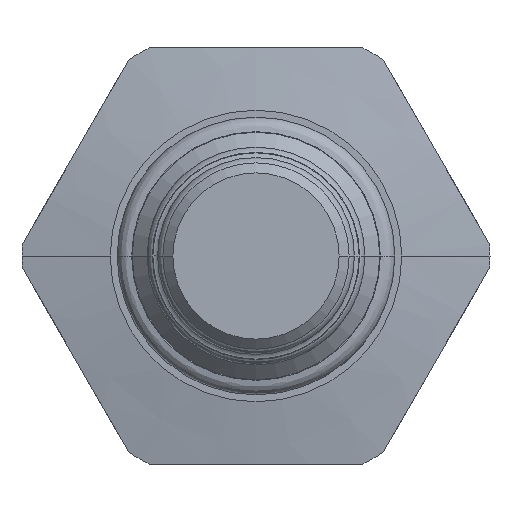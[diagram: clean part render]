
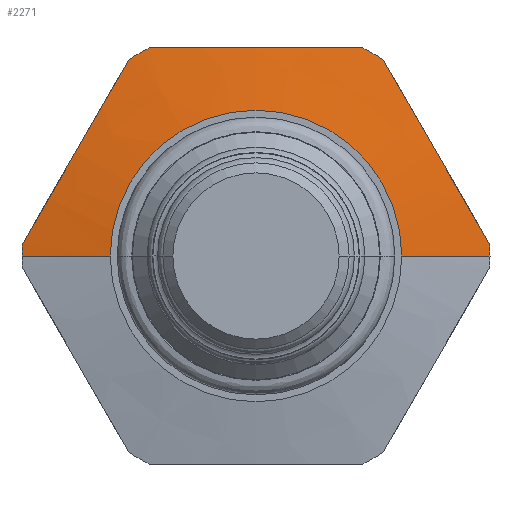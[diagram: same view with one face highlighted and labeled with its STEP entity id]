
A CAD part, front view. The second image highlights one B-rep face of the part: STEP entity #2271.
In plain terms, the highlighted conical face has half-angle 80 degrees and reference radius 14.478 mm.
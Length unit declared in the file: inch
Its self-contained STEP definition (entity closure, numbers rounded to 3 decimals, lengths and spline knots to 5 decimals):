
#100=CARTESIAN_POINT('',(0.,0.03,0.));
#101=DIRECTION('',(0.,-1.,0.));
#102=DIRECTION('',(1.,0.,0.));
#103=AXIS2_PLACEMENT_3D('',#100,#101,#102);
#105=CARTESIAN_POINT('',(0.,0.07673,0.));
#106=DIRECTION('',(0.,1.,0.));
#107=DIRECTION('',(0.999,0.,0.049));
#108=AXIS2_PLACEMENT_3D('',#105,#106,#107);
#110=DIRECTION('',(-0.985,-0.174,0.));
#111=VECTOR('',#110,0.26909);
#112=CARTESIAN_POINT('',(0.7025,0.07673,0.));
#113=LINE('',#112,#111);
#114=DIRECTION('',(0.985,-0.174,0.));
#115=VECTOR('',#114,0.26909);
#116=CARTESIAN_POINT('',(-0.7025,0.07673,0.));
#117=LINE('',#116,#115);
#118=CARTESIAN_POINT('',(0.,0.07673,0.));
#119=DIRECTION('',(0.,1.,0.));
#120=DIRECTION('',(-1.,0.,0.));
#121=AXIS2_PLACEMENT_3D('',#118,#119,#120);
#123=CARTESIAN_POINT('',(0.,0.07673,0.));
#124=DIRECTION('',(0.,1.,0.));
#125=DIRECTION('',(-0.542,0.,0.84));
#126=AXIS2_PLACEMENT_3D('',#123,#124,#125);
#128=CARTESIAN_POINT('',(0.,0.07673,0.));
#129=DIRECTION('',(0.,1.,0.));
#130=DIRECTION('',(0.457,0.,0.89));
#131=AXIS2_PLACEMENT_3D('',#128,#129,#130);
#155=CARTESIAN_POINT('',(0.38089,0.07673,
0.59028));
#156=CARTESIAN_POINT('',(0.38768,0.07563,
0.57852));
#157=CARTESIAN_POINT('',(0.40119,0.07357,
0.55512));
#158=CARTESIAN_POINT('',(0.42122,0.07085,
0.52043));
#159=CARTESIAN_POINT('',(0.44116,0.06851,
0.4859));
#160=CARTESIAN_POINT('',(0.46108,0.06656,
0.45139));
#161=CARTESIAN_POINT('',(0.48104,0.06502,
0.41681));
#162=CARTESIAN_POINT('',(0.50106,0.0639,
0.38213));
#163=CARTESIAN_POINT('',(0.52115,0.06321,
0.34735));
#164=CARTESIAN_POINT('',(0.54127,0.06299,
0.3125));
#165=CARTESIAN_POINT('',(0.56139,0.06321,
0.27765));
#166=CARTESIAN_POINT('',(0.58147,0.0639,
0.24287));
#167=CARTESIAN_POINT('',(0.60149,0.06502,
0.20819));
#168=CARTESIAN_POINT('',(0.62145,0.06656,
0.17361));
#169=CARTESIAN_POINT('',(0.64138,0.06851,
0.1391));
#170=CARTESIAN_POINT('',(0.66132,0.07085,
0.10457));
#171=CARTESIAN_POINT('',(0.68134,0.07357,
0.06988));
#172=CARTESIAN_POINT('',(0.69485,0.07563,
0.04648));
#173=CARTESIAN_POINT('',(0.70164,0.07673,
0.03472));
#197=CARTESIAN_POINT('',(-0.32075,0.07673,0.625));
#198=CARTESIAN_POINT('',(-0.30718,0.07563,0.625));
#199=CARTESIAN_POINT('',(-0.28016,0.07357,0.625));
#200=CARTESIAN_POINT('',(-0.2401,0.07085,0.625));
#201=CARTESIAN_POINT('',(-0.20022,0.06851,0.625));
#202=CARTESIAN_POINT('',(-0.16037,0.06656,0.625));
#203=CARTESIAN_POINT('',(-0.12045,0.06502,0.625));
#204=CARTESIAN_POINT('',(-0.08041,0.0639,0.625));
#205=CARTESIAN_POINT('',(-0.04024,0.06321,0.625));
#206=CARTESIAN_POINT('',(0.,0.06299,0.625));
#207=CARTESIAN_POINT('',(0.04024,0.06321,0.625));
#208=CARTESIAN_POINT('',(0.08041,0.0639,0.625));
#209=CARTESIAN_POINT('',(0.12045,0.06502,0.625));
#210=CARTESIAN_POINT('',(0.16037,0.06656,0.625));
#211=CARTESIAN_POINT('',(0.20022,0.06851,0.625));
#212=CARTESIAN_POINT('',(0.2401,0.07085,0.625));
#213=CARTESIAN_POINT('',(0.28016,0.07357,0.625));
#214=CARTESIAN_POINT('',(0.30718,0.07563,0.625));
#215=CARTESIAN_POINT('',(0.32075,0.07673,0.625));
#239=CARTESIAN_POINT('',(-0.70164,0.07673,
0.03472));
#240=CARTESIAN_POINT('',(-0.69485,0.07563,
0.04648));
#241=CARTESIAN_POINT('',(-0.68134,0.07357,
0.06988));
#242=CARTESIAN_POINT('',(-0.66132,0.07085,
0.10457));
#243=CARTESIAN_POINT('',(-0.64138,0.06851,
0.1391));
#244=CARTESIAN_POINT('',(-0.62145,0.06656,
0.17361));
#245=CARTESIAN_POINT('',(-0.60149,0.06502,
0.20819));
#246=CARTESIAN_POINT('',(-0.58147,0.0639,
0.24287));
#247=CARTESIAN_POINT('',(-0.56139,0.06321,
0.27765));
#248=CARTESIAN_POINT('',(-0.54127,0.06299,
0.3125));
#249=CARTESIAN_POINT('',(-0.52115,0.06321,
0.34735));
#250=CARTESIAN_POINT('',(-0.50106,0.0639,
0.38213));
#251=CARTESIAN_POINT('',(-0.48104,0.06502,
0.41681));
#252=CARTESIAN_POINT('',(-0.46108,0.06656,
0.45139));
#253=CARTESIAN_POINT('',(-0.44116,0.06851,
0.4859));
#254=CARTESIAN_POINT('',(-0.42122,0.07085,
0.52043));
#255=CARTESIAN_POINT('',(-0.40119,0.07357,
0.55512));
#256=CARTESIAN_POINT('',(-0.38768,0.07563,
0.57852));
#257=CARTESIAN_POINT('',(-0.38089,0.07673,
0.59028));
#1907=CARTESIAN_POINT('',(0.4375,0.03,0.));
#1909=VERTEX_POINT('',#1907);
#1915=CARTESIAN_POINT('',(-0.4375,0.03,0.));
#1917=VERTEX_POINT('',#1915);
#1927=CARTESIAN_POINT('',(0.7025,0.07673,0.));
#1928=VERTEX_POINT('',#1927);
#1929=CARTESIAN_POINT('',(-0.7025,0.07673,0.));
#1930=VERTEX_POINT('',#1929);
#2007=CARTESIAN_POINT('',(0.38089,0.07673,
0.59028));
#2009=VERTEX_POINT('',#2007);
#2011=CARTESIAN_POINT('',(0.70164,0.07673,
0.03472));
#2013=VERTEX_POINT('',#2011);
#2015=CARTESIAN_POINT('',(-0.32075,0.07673,0.625));
#2017=VERTEX_POINT('',#2015);
#2019=CARTESIAN_POINT('',(0.32075,0.07673,0.625));
#2021=VERTEX_POINT('',#2019);
#2023=CARTESIAN_POINT('',(-0.70164,0.07673,
0.03472));
#2025=VERTEX_POINT('',#2023);
#2027=CARTESIAN_POINT('',(-0.38089,0.07673,
0.59028));
#2029=VERTEX_POINT('',#2027);
#2245=CARTESIAN_POINT('',(0.,0.05336,0.));
#2246=DIRECTION('',(0.,1.,0.));
#2247=DIRECTION('',(1.,0.,0.));
#2248=AXIS2_PLACEMENT_3D('',#2245,#2246,#2247);
#2249=CONICAL_SURFACE('',#2248,0.57,80.);
#2251=ORIENTED_EDGE('',*,*,#2250,.T.);
#2253=ORIENTED_EDGE('',*,*,#2252,.T.);
#2255=ORIENTED_EDGE('',*,*,#2254,.T.);
#2256=ORIENTED_EDGE('',*,*,#2240,.T.);
#2258=ORIENTED_EDGE('',*,*,#2257,.F.);
#2260=ORIENTED_EDGE('',*,*,#2259,.T.);
#2262=ORIENTED_EDGE('',*,*,#2261,.T.);
#2264=ORIENTED_EDGE('',*,*,#2263,.T.);
#2266=ORIENTED_EDGE('',*,*,#2265,.T.);
#2268=ORIENTED_EDGE('',*,*,#2267,.T.);
#2269=EDGE_LOOP('',(#2251,#2253,#2255,#2256,#2258,#2260,#2262,#2264,#2266,
#2268));
#2270=FACE_OUTER_BOUND('',#2269,.F.);
#2271=ADVANCED_FACE('',(#2270),#2249,.T.);
#104=CIRCLE('',#103,0.4375);
#109=CIRCLE('',#108,0.7025);
#122=CIRCLE('',#121,0.7025);
#127=CIRCLE('',#126,0.7025);
#132=CIRCLE('',#131,0.7025);
#174=B_SPLINE_CURVE_WITH_KNOTS('',3,(#155,#156,#157,#158,#159,#160,#161,#162,
#163,#164,#165,#166,#167,#168,#169,#170,#171,#172,#173),.UNSPECIFIED.,.F.,.F.,
(4,1,1,1,1,1,1,1,1,1,1,1,1,1,1,1,4),(0.,0.0625,0.125,0.1875,0.25,
0.3125,0.375,0.4375,0.5,0.5625,0.625,0.6875,0.75,0.8125,
0.875,0.9375,1.),.UNSPECIFIED.);
#216=B_SPLINE_CURVE_WITH_KNOTS('',3,(#197,#198,#199,#200,#201,#202,#203,#204,
#205,#206,#207,#208,#209,#210,#211,#212,#213,#214,#215),.UNSPECIFIED.,.F.,.F.,
(4,1,1,1,1,1,1,1,1,1,1,1,1,1,1,1,4),(0.,0.0625,0.125,0.1875,0.25,
0.3125,0.375,0.4375,0.5,0.5625,0.625,0.6875,0.75,0.8125,
0.875,0.9375,1.),.UNSPECIFIED.);
#258=B_SPLINE_CURVE_WITH_KNOTS('',3,(#239,#240,#241,#242,#243,#244,#245,#246,
#247,#248,#249,#250,#251,#252,#253,#254,#255,#256,#257),.UNSPECIFIED.,.F.,.F.,
(4,1,1,1,1,1,1,1,1,1,1,1,1,1,1,1,4),(0.,0.0625,0.125,0.1875,0.25,
0.3125,0.375,0.4375,0.5,0.5625,0.625,0.6875,0.75,0.8125,
0.875,0.9375,1.),.UNSPECIFIED.);
#2240=EDGE_CURVE('',#1909,#1917,#104,.T.);
#2250=EDGE_CURVE('',#2009,#2013,#174,.T.);
#2252=EDGE_CURVE('',#2013,#1928,#109,.T.);
#2254=EDGE_CURVE('',#1928,#1909,#113,.T.);
#2257=EDGE_CURVE('',#1930,#1917,#117,.T.);
#2259=EDGE_CURVE('',#1930,#2025,#122,.T.);
#2261=EDGE_CURVE('',#2025,#2029,#258,.T.);
#2263=EDGE_CURVE('',#2029,#2017,#127,.T.);
#2265=EDGE_CURVE('',#2017,#2021,#216,.T.);
#2267=EDGE_CURVE('',#2021,#2009,#132,.T.);
